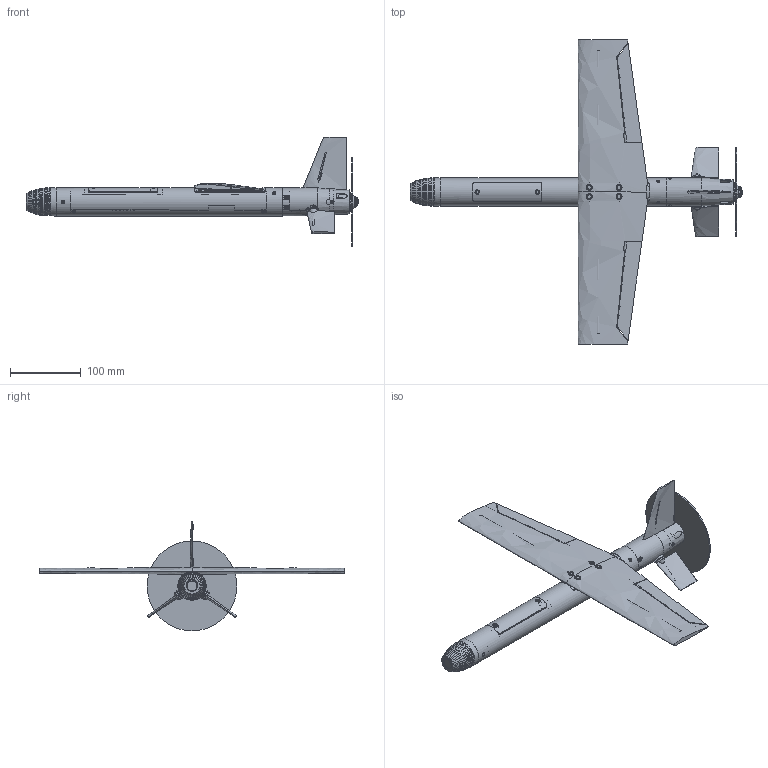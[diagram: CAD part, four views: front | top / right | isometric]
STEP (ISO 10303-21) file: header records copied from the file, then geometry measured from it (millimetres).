
FILE_DESCRIPTION(('SkyG Speed 90B - revision C6B-11 - 2026-10-11','C6B-assembly'),'2;1');
FILE_NAME('C6B-assembly_C6B-11','2026-10-11T13:31:19',('Author'),( 'Open CASCADE'),'Open CASCADE STEP processor 7.9','Open CASCADE 7.9' ,'Unknown');
FILE_SCHEMA(('AUTOMOTIVE_DESIGN { 1 0 10303 214 1 1 1 1 }'));
Length unit declared in the file: millimetre
Products named in the file (162): C4; N0M-nose-micro-camera; N0M-vtx-shelf; F3-tail-module; WR-wing-right; WL-wing-left; AR-aileron-right; AL-aileron-left; SR-stabilator-right; SL-stabilator-left; FN-fin; AHR-aileron-horn-right; AHL-aileron-horn-left; THR-tail-horn-right; THL-tail-horn-left; TR-equipment-tray; TC-tail-coupler; CW-countersunk-washer; NB1-wing-nut-bar-front; NB2-wing-nut-bar-rear; HL1-hatch-lip-front; HL2-hatch-lip-rear; HF-front-hatch; WF-wing-window-filler; HG-gps-carrier; M1-motor-plate; SP-spinner; ENV-scr_mplate_R; ENV-cw_13; ENV-scr_mplate_L; ENV-cw_14; ENV-motor; ENV-prop_disc; ENV-prop_hub_nut; ENV-battery; ENV-camera_micro19; ENV-cam_screws; ENV-O_o4_camera; ENV-O_o4_screws; ENV-O_o4_module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
Assembly tree (161 placements, depth 2):
  C4
    N0M-nose-micro-camera
    N0M-vtx-shelf
    F3-tail-module
    WR-wing-right
    WL-wing-left
    AR-aileron-right
    AL-aileron-left
    SR-stabilator-right
    SL-stabilator-left
    FN-fin
    AHR-aileron-horn-right
    AHL-aileron-horn-left
    THR-tail-horn-right
    THL-tail-horn-left
    TR-equipment-tray
    TC-tail-coupler
    CW-countersunk-washer
    NB1-wing-nut-bar-front
    NB2-wing-nut-bar-rear
    HL1-hatch-lip-front
    HL2-hatch-lip-rear
    HF-front-hatch
    WF-wing-window-filler
    HG-gps-carrier
    M1-motor-plate
    SP-spinner
    ENV-scr_mplate_R
    ENV-cw_13
    ENV-scr_mplate_L
    ENV-cw_14
    ENV-motor
    ENV-prop_disc
    ENV-prop_hub_nut
    ENV-battery
    ENV-camera_micro19
    ENV-cam_screws
    ENV-O_o4_camera
    ENV-O_o4_screws
    ENV-O_o4_module
    ENV-vtx
    ENV-gnss
    ENV-flight_controller
    ENV-ail_servo_arm
    ENV-ail_rod_R
    ENV-ail_link_R
    ENV-ail_rod_L
    ENV-ail_link_L
    ENV-ail_spine_R
    ENV-ail_spine_L
    ENV-receiver
    ENV-ant_elrs
    ENV-ant_vtx
    ENV-O_ant_video
    ENV-aileron_servo
    ENV-tail_servo_L
    ENV-tail_servo_R
    ENV-esc
    ENV-tail_servo_arm_R
    ENV-tail_link_R
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Bounding box: 469.18 x 430 x 155.1 mm (x, y, z)
Volume: 475935.4 mm3; surface area: 353543.2 mm2
Topology: 185 solids, 185 shells, 2671 faces, 6767 edges, 4482 vertices
Faces by surface type: plane 1717, cylinder 559, bspline 211, cone 151, torus 15, revolution 11, sphere 7
Full cylindrical faces by diameter (mm): 0.98 x6, 1.107 x11, 1.2 x22, 1.25 x8, 1.5 x2, 1.6 x34, 1.9 x1, 2 x32, 2.1 x2, 2.2 x22, 2.5 x2, 2.6 x4, 2.842 x6, 3 x17, 3.05 x2, 3.2 x8, 3.8 x2, 3.9 x3, 3.94 x3, 4 x4, 4.9 x14, 5 x12, 5.2 x3, 5.5 x4, 5.6 x3, 6 x5, 6.3 x2, 8 x4, 9 x1, 9.2 x1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
Entity records: 428510 total; most frequent: CARTESIAN_POINT 298145, DIRECTION 20738, ORIENTED_EDGE 13520, PCURVE 13520, DEFINITIONAL_REPRESENTATION 13520, LINE 9362, VECTOR 9362, EDGE_CURVE 6760
